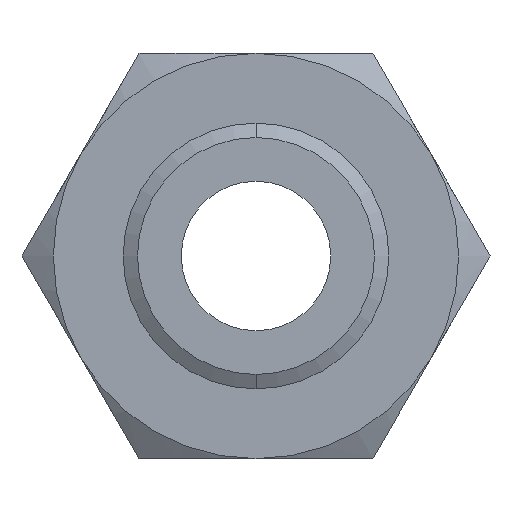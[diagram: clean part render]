
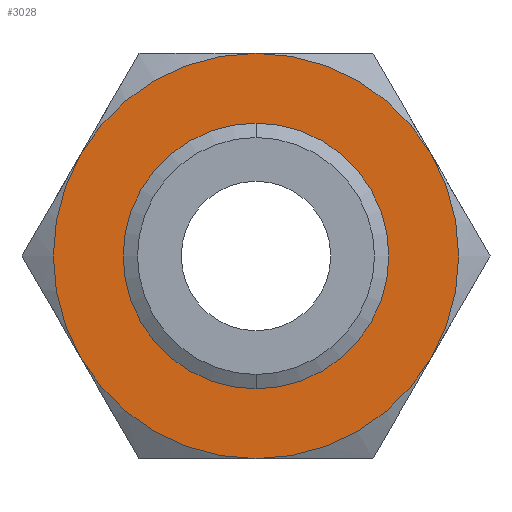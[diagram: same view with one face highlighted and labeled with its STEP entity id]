
A CAD part, front view. The second image highlights one B-rep face of the part: STEP entity #3028.
In plain terms, the highlighted planar face has unit normal (0, -1, 0).
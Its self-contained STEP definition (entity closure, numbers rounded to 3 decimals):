
#1745 = CARTESIAN_POINT ( 'NONE',  ( 0., 0., 45.301 ) ) ;
#1746 = DIRECTION ( 'NONE',  ( 0., 0., -1. ) ) ;
#1747 = DIRECTION ( 'NONE',  ( 0., -1., 0. ) ) ;
#1748 = CARTESIAN_POINT ( 'NONE',  ( 0., 0., 0. ) ) ;
#1749 = AXIS2_PLACEMENT_3D ( 'NONE', #1748, #1747, #1746 ) ;
#1750 = CIRCLE ( 'NONE', #1749, 45.301 ) ;
#1751 = CARTESIAN_POINT ( 'NONE',  ( 0., 0., -45.301 ) ) ;
#1966 = CIRCLE ( 'NONE', #2028, 77.5 ) ;
#1980 = DIRECTION ( 'NONE',  ( 0., 0., 1. ) ) ;
#1981 = DIRECTION ( 'NONE',  ( 0., 1., 0. ) ) ;
#1982 = CARTESIAN_POINT ( 'NONE',  ( 44.745, 0., -77.5 ) ) ;
#1983 = AXIS2_PLACEMENT_3D ( 'NONE', #1982, #1981, #1980 ) ;
#1984 = PLANE ( 'NONE',  #1983 ) ;
#1985 = FACE_BOUND ( 'NONE', #3143, .T. ) ;
#1986 = FACE_OUTER_BOUND ( 'NONE', #3034, .T. ) ;
#1987 = CARTESIAN_POINT ( 'NONE',  ( 0., 0., 77.5 ) ) ;
#2025 = DIRECTION ( 'NONE',  ( 0., 0., 1. ) ) ;
#2026 = DIRECTION ( 'NONE',  ( 0., 1., 0. ) ) ;
#2027 = CARTESIAN_POINT ( 'NONE',  ( 0., 0., 0. ) ) ;
#2028 = AXIS2_PLACEMENT_3D ( 'NONE', #2027, #2026, #2025 ) ;
#2088 = CARTESIAN_POINT ( 'NONE',  ( 0., 0., 0. ) ) ;
#2089 = AXIS2_PLACEMENT_3D ( 'NONE', #2088, #2156, #2155 ) ;
#2090 = CIRCLE ( 'NONE', #2089, 77.5 ) ;
#2091 = DIRECTION ( 'NONE',  ( 0., 0., 1. ) ) ;
#2092 = DIRECTION ( 'NONE',  ( 0., 1., 0. ) ) ;
#2093 = CARTESIAN_POINT ( 'NONE',  ( 0., 0., 0. ) ) ;
#2094 = AXIS2_PLACEMENT_3D ( 'NONE', #2093, #2092, #2091 ) ;
#2095 = CIRCLE ( 'NONE', #2094, 77.5 ) ;
#2096 = CARTESIAN_POINT ( 'NONE',  ( 0., 0., -77.5 ) ) ;
#2097 = CARTESIAN_POINT ( 'NONE',  ( 67.117, 0., -38.75 ) ) ;
#2126 = DIRECTION ( 'NONE',  ( 0., 0., 1. ) ) ;
#2128 = DIRECTION ( 'NONE',  ( 0., 1., 0. ) ) ;
#2129 = CARTESIAN_POINT ( 'NONE',  ( 0., 0., 0. ) ) ;
#2130 = AXIS2_PLACEMENT_3D ( 'NONE', #2129, #2128, #2126 ) ;
#2131 = CIRCLE ( 'NONE', #2130, 77.5 ) ;
#2147 = DIRECTION ( 'NONE',  ( 0., 0., 1. ) ) ;
#2148 = DIRECTION ( 'NONE',  ( 0., 1., 0. ) ) ;
#2149 = CARTESIAN_POINT ( 'NONE',  ( 0., 0., 0. ) ) ;
#2150 = AXIS2_PLACEMENT_3D ( 'NONE', #2149, #2148, #2147 ) ;
#2151 = CIRCLE ( 'NONE', #2150, 77.5 ) ;
#2153 = CARTESIAN_POINT ( 'NONE',  ( -67.117, 0., 38.75 ) ) ;
#2154 = CARTESIAN_POINT ( 'NONE',  ( -67.117, 0., -38.75 ) ) ;
#2155 = DIRECTION ( 'NONE',  ( 0., 0., 1. ) ) ;
#2156 = DIRECTION ( 'NONE',  ( 0., 1., 0. ) ) ;
#2192 = CARTESIAN_POINT ( 'NONE',  ( 67.117, 0., 38.75 ) ) ;
#2228 = CIRCLE ( 'NONE', #2238, 77.5 ) ;
#2238 = AXIS2_PLACEMENT_3D ( 'NONE', #2281, #2280, #2278 ) ;
#2263 = CARTESIAN_POINT ( 'NONE',  ( 0., 0., 0. ) ) ;
#2264 = AXIS2_PLACEMENT_3D ( 'NONE', #2263, #2319, #2318 ) ;
#2266 = CIRCLE ( 'NONE', #2264, 45.301 ) ;
#2278 = DIRECTION ( 'NONE',  ( 0., 0., 1. ) ) ;
#2280 = DIRECTION ( 'NONE',  ( 0., 1., 0. ) ) ;
#2281 = CARTESIAN_POINT ( 'NONE',  ( 0., 0., 0. ) ) ;
#2318 = DIRECTION ( 'NONE',  ( 0., 0., -1. ) ) ;
#2319 = DIRECTION ( 'NONE',  ( 0., -1., 0. ) ) ;
#2924 = VERTEX_POINT ( 'NONE', #1751 ) ;
#2925 = EDGE_CURVE ( 'NONE', #2924, #2926, #1750, .T. ) ;
#2926 = VERTEX_POINT ( 'NONE', #1745 ) ;
#3027 = VERTEX_POINT ( 'NONE', #1987 ) ;
#3028 = ADVANCED_FACE ( 'NONE', ( #1986, #1985 ), #1984, .F. ) ;
#3033 = ORIENTED_EDGE ( 'NONE', *, *, #3038, .F. ) ;
#3034 = EDGE_LOOP ( 'NONE', ( #3033, #3097, #3086, #3090, #3080, #3084 ) ) ;
#3038 = EDGE_CURVE ( 'NONE', #3027, #3101, #1966, .T. ) ;
#3080 = ORIENTED_EDGE ( 'NONE', *, *, #3085, .F. ) ;
#3081 = VERTEX_POINT ( 'NONE', #2097 ) ;
#3082 = VERTEX_POINT ( 'NONE', #2096 ) ;
#3083 = EDGE_CURVE ( 'NONE', #3082, #3087, #2095, .T. ) ;
#3084 = ORIENTED_EDGE ( 'NONE', *, *, #3144, .F. ) ;
#3085 = EDGE_CURVE ( 'NONE', #3081, #3082, #2090, .T. ) ;
#3086 = ORIENTED_EDGE ( 'NONE', *, *, #3089, .F. ) ;
#3087 = VERTEX_POINT ( 'NONE', #2154 ) ;
#3088 = VERTEX_POINT ( 'NONE', #2153 ) ;
#3089 = EDGE_CURVE ( 'NONE', #3087, #3088, #2151, .T. ) ;
#3090 = ORIENTED_EDGE ( 'NONE', *, *, #3083, .F. ) ;
#3093 = EDGE_CURVE ( 'NONE', #3088, #3027, #2131, .T. ) ;
#3097 = ORIENTED_EDGE ( 'NONE', *, *, #3093, .F. ) ;
#3101 = VERTEX_POINT ( 'NONE', #2192 ) ;
#3131 = ORIENTED_EDGE ( 'NONE', *, *, #3150, .F. ) ;
#3140 = ORIENTED_EDGE ( 'NONE', *, *, #2925, .F. ) ;
#3143 = EDGE_LOOP ( 'NONE', ( #3140, #3131 ) ) ;
#3144 = EDGE_CURVE ( 'NONE', #3101, #3081, #2228, .T. ) ;
#3150 = EDGE_CURVE ( 'NONE', #2926, #2924, #2266, .T. ) ;
